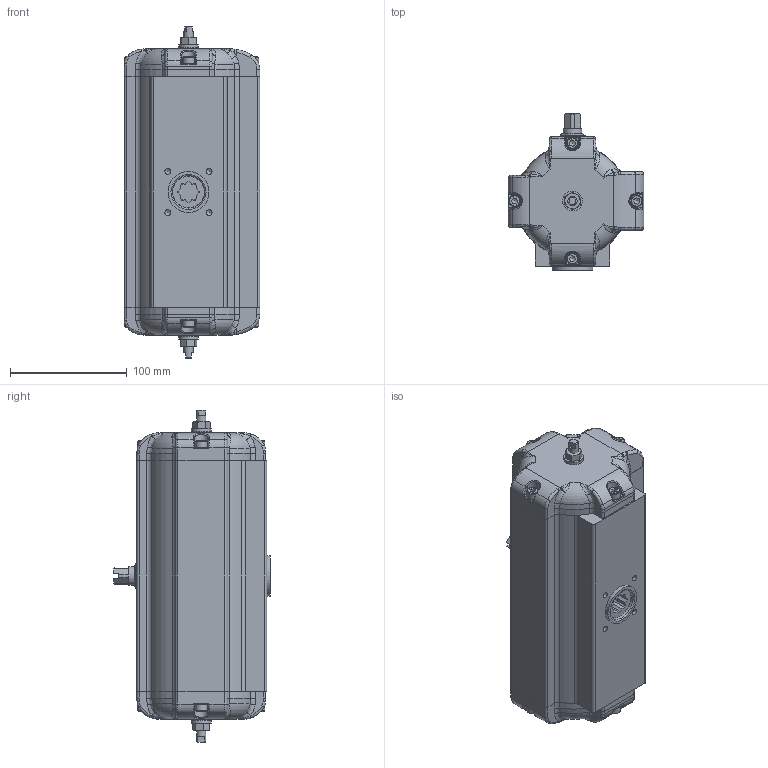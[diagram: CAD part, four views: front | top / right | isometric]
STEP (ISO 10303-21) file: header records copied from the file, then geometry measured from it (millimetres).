
FILE_DESCRIPTION((''),'2;1');
FILE_NAME('C:\Dokumente und Einstellungen\ko-p\Desktop\SAD_15-180°_BR03.stp','2011-02-03T09:38:07',('war'),(''),'Autodesk Inventor 2010','Autodesk Inventor 2010','');
FILE_SCHEMA(('AUTOMOTIVE_DESIGN { 1 0 10303 214 1 1 1 1 }'));
Length unit declared in the file: millimetre
Products named in the file (1): ENG-056319_Konturvereinfachung_1
Bounding box: 116 x 133.8 x 284 mm (x, y, z)
Surface area: 133725.4 mm2 (no closed solid volume)
Topology: 0 solids, 28 shells, 568 faces, 1703 edges, 1113 vertices
Faces by surface type: plane 191, bspline 137, cylinder 131, torus 73, cone 36
Full cylindrical faces by diameter (mm): 1.7 x2, 8 x2, 10 x8, 14 x1, 15.8 x1, 17 x2, 22 x1, 35 x1
Entity records: 23108 total; most frequent: CARTESIAN_POINT 8916, ORIENTED_EDGE 2704, DIRECTION 2615, EDGE_CURVE 1580, VERTEX_POINT 1072, AXIS2_PLACEMENT_3D 1023, EDGE_LOOP 671, CIRCLE 575
